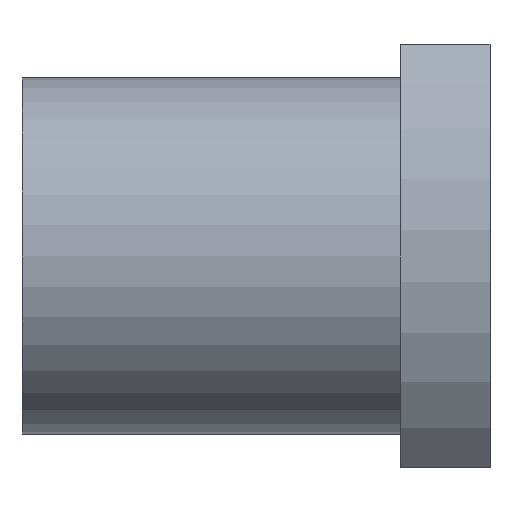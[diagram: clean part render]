
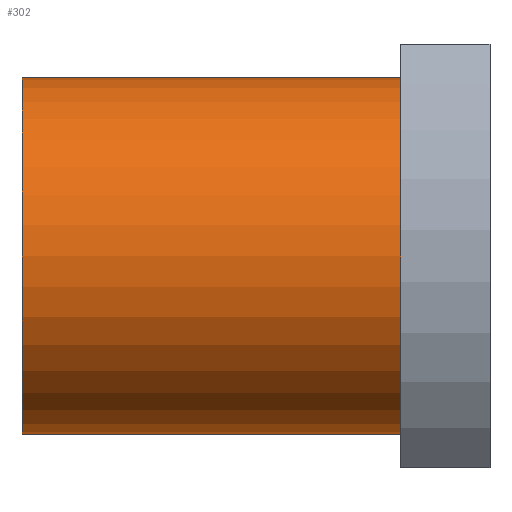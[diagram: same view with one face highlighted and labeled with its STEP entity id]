
A CAD part, front view. The second image highlights one B-rep face of the part: STEP entity #302.
In plain terms, the highlighted cylindrical face has radius 16 mm (diameter 32 mm), a full revolution.
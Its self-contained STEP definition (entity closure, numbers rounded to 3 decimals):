
#37=CYLINDRICAL_SURFACE('',#346,16.);
#60=ORIENTED_EDGE('',*,*,#124,.T.);
#61=ORIENTED_EDGE('',*,*,#125,.T.);
#124=EDGE_CURVE('',#156,#156,#182,.T.);
#125=EDGE_CURVE('',#157,#157,#183,.F.);
#156=VERTEX_POINT('',#508);
#157=VERTEX_POINT('',#510);
#182=CIRCLE('',#347,16.);
#183=CIRCLE('',#348,16.);
#205=EDGE_LOOP('',(#60));
#206=EDGE_LOOP('',(#61));
#251=FACE_BOUND('',#205,.T.);
#252=FACE_BOUND('',#206,.T.);
#302=ADVANCED_FACE('',(#251,#252),#37,.T.);
#346=AXIS2_PLACEMENT_3D('',#506,#410,#411);
#347=AXIS2_PLACEMENT_3D('',#507,#412,#413);
#348=AXIS2_PLACEMENT_3D('',#509,#414,#415);
#410=DIRECTION('',(1.,0.,0.));
#411=DIRECTION('',(0.,0.,-1.));
#412=DIRECTION('',(1.,0.,0.));
#413=DIRECTION('',(0.,0.,-1.));
#414=DIRECTION('',(1.,0.,0.));
#415=DIRECTION('',(0.,0.,-1.));
#506=CARTESIAN_POINT('',(-21.,0.,0.));
#507=CARTESIAN_POINT('',(-21.,0.,0.));
#508=CARTESIAN_POINT('',(-21.,0.,-16.));
#509=CARTESIAN_POINT('',(13.,0.,0.));
#510=CARTESIAN_POINT('',(13.,0.,-16.));
